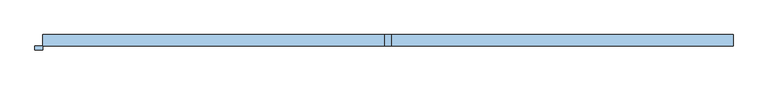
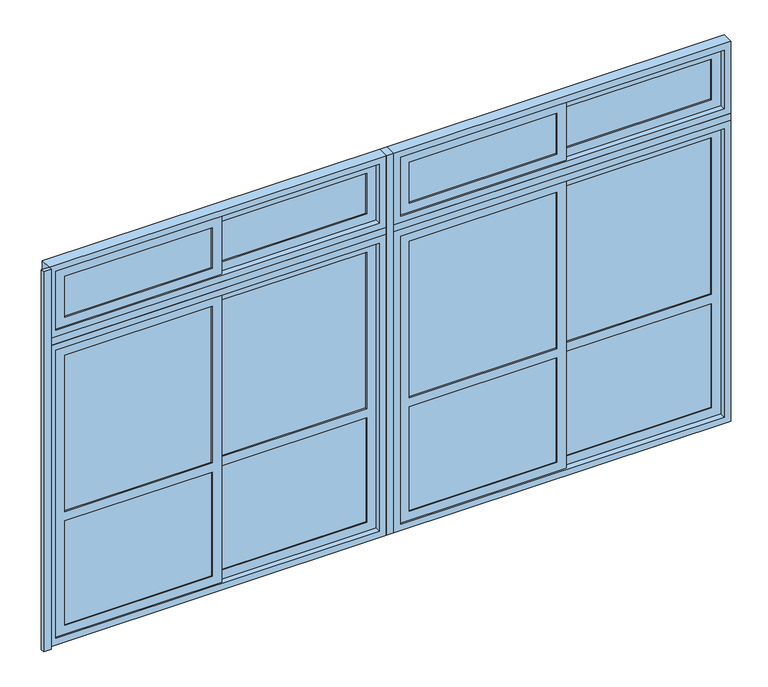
"""IFC4 building model written with IfcOpenShell, lengths in millimetres: window geometry, A11 Ventana_Corrediza_PC_4 hojas : A11.1 Ventana_Corrediza_PC_4 hojas 450x265."""

from ifc_helpers import new_model, si_unit, frame, origin, origin_with_axes, place, context, project, spatial, polyline, outline, extrude, source, transform, mapped, element, save


def window_8b68bda0(model_context):
    return source(origin(), model_context, "Body", "SweptSolid", [
        extrude(outline(polyline([(-1169.0, 28.0), (-2142.0, 28.0), (-2142.0, 44.0), (-1169.0, 44.0), (-1169.0, 28.0)])), frame((0.0, 0.0, 108.0), z_axis=(0.0, 0.0, 1.0), x_axis=(1.0, 0.0, 0.0)), (0.0, 0.0, 1.0), 728.0),
        extrude(outline(polyline([(-133.0, 56.0), (-1106.0, 56.0), (-1106.0, 72.0), (-133.0, 72.0), (-133.0, 56.0)])), frame((0.0, 0.0, 108.0), z_axis=(0.0, 0.0, 1.0), x_axis=(1.0, 0.0, 0.0)), (0.0, 0.0, 1.0), 728.0),
        extrude(outline(polyline([(-1169.0, 31.5769719), (-2142.0, 31.5769719), (-2142.0, 40.4230281), (-1169.0, 40.4230281), (-1169.0, 31.5769719)])), frame((0.0, 0.0, 2258.0), z_axis=(0.0, 0.0, 1.0), x_axis=(1.0, 0.0, 0.0)), (0.0, 0.0, 1.0), 284.0),
        extrude(outline(polyline([(-1169.0, 31.5769719), (-2142.0, 31.5769719), (-2142.0, 40.4230281), (-1169.0, 40.4230281), (-1169.0, 31.5769719)])), frame((0.0, 0.0, 900.0), z_axis=(0.0, 0.0, 1.0), x_axis=(1.0, 0.0, 0.0)), (0.0, 0.0, 1.0), 1092.0),
        extrude(outline(polyline([(-133.0, 59.5769719), (-1106.0, 59.5769719), (-1106.0, 68.4230281), (-133.0, 68.4230281), (-133.0, 59.5769719)])), frame((0.0, 0.0, 2258.0), z_axis=(0.0, 0.0, 1.0), x_axis=(1.0, 0.0, 0.0)), (0.0, 0.0, 1.0), 284.0),
        extrude(outline(polyline([(-133.0, 59.5769719), (-1106.0, 59.5769719), (-1106.0, 68.4230281), (-133.0, 68.4230281), (-133.0, 59.5769719)])), frame((0.0, 0.0, 900.0), z_axis=(0.0, 0.0, 1.0), x_axis=(1.0, 0.0, 0.0)), (0.0, 0.0, 1.0), 1092.0),
        extrude(outline(polyline([(2605.0, -2205.0), (2195.0, -2205.0), (2195.0, -1106.0), (2605.0, -1106.0), (2605.0, -2205.0)]), holes=[polyline([(2542.0, -2142.0), (2542.0, -1169.0), (2258.0, -1169.0), (2258.0, -2142.0), (2542.0, -2142.0)])]), frame((0.0, 22.0, 0.0), z_axis=(0.0, 1.0, 0.0), x_axis=(0.0, 0.0, 1.0)), (0.0, 0.0, 1.0), 28.0),
        extrude(outline(polyline([(2055.0, -2205.0), (45.0, -2205.0), (45.0, -1106.0), (2055.0, -1106.0), (2055.0, -2205.0)]), holes=[polyline([(1992.0, -2142.0), (1992.0, -1169.0), (900.0, -1169.0), (900.0, -2142.0), (1992.0, -2142.0)]), polyline([(836.0, -2142.0), (836.0, -1169.0), (108.0, -1169.0), (108.0, -2142.0), (836.0, -2142.0)])]), frame((0.0, 22.0, 0.0), z_axis=(0.0, 1.0, 0.0), x_axis=(0.0, 0.0, 1.0)), (0.0, 0.0, 1.0), 28.0),
        extrude(outline(polyline([(2605.0, -1169.0), (2195.0, -1169.0), (2195.0, -70.0), (2605.0, -70.0), (2605.0, -1169.0)]), holes=[polyline([(2542.0, -1106.0), (2542.0, -133.0), (2258.0, -133.0), (2258.0, -1106.0), (2542.0, -1106.0)])]), frame((0.0, 50.0, 0.0), z_axis=(0.0, 1.0, 0.0), x_axis=(0.0, 0.0, 1.0)), (0.0, 0.0, 1.0), 28.0),
        extrude(outline(polyline([(2055.0, -1169.0), (45.0, -1169.0), (45.0, -70.0), (2055.0, -70.0), (2055.0, -1169.0)]), holes=[polyline([(1992.0, -1106.0), (1992.0, -133.0), (900.0, -133.0), (900.0, -1106.0), (1992.0, -1106.0)]), polyline([(836.0, -1106.0), (836.0, -133.0), (108.0, -133.0), (108.0, -1106.0), (836.0, -1106.0)])]), frame((0.0, 50.0, 0.0), z_axis=(0.0, 1.0, 0.0), x_axis=(0.0, 0.0, 1.0)), (0.0, 0.0, 1.0), 28.0),
        extrude(outline(polyline([(1106.0, 28.0), (133.0, 28.0), (133.0, 44.0), (1106.0, 44.0), (1106.0, 28.0)])), frame((0.0, 0.0, 108.0), z_axis=(0.0, 0.0, 1.0), x_axis=(1.0, 0.0, 0.0)), (0.0, 0.0, 1.0), 728.0),
        extrude(outline(polyline([(2142.0, 56.0), (1169.0, 56.0), (1169.0, 72.0), (2142.0, 72.0), (2142.0, 56.0)])), frame((0.0, 0.0, 108.0), z_axis=(0.0, 0.0, 1.0), x_axis=(1.0, 0.0, 0.0)), (0.0, 0.0, 1.0), 728.0),
        extrude(outline(polyline([(1106.0, 31.5769719), (133.0, 31.5769719), (133.0, 40.4230281), (1106.0, 40.4230281), (1106.0, 31.5769719)])), frame((0.0, 0.0, 2258.0), z_axis=(0.0, 0.0, 1.0), x_axis=(1.0, 0.0, 0.0)), (0.0, 0.0, 1.0), 284.0),
        extrude(outline(polyline([(1106.0, 31.5769719), (133.0, 31.5769719), (133.0, 40.4230281), (1106.0, 40.4230281), (1106.0, 31.5769719)])), frame((0.0, 0.0, 900.0), z_axis=(0.0, 0.0, 1.0), x_axis=(1.0, 0.0, 0.0)), (0.0, 0.0, 1.0), 1092.0),
        extrude(outline(polyline([(2142.0, 59.5769719), (1169.0, 59.5769719), (1169.0, 68.4230281), (2142.0, 68.4230281), (2142.0, 59.5769719)])), frame((0.0, 0.0, 2258.0), z_axis=(0.0, 0.0, 1.0), x_axis=(1.0, 0.0, 0.0)), (0.0, 0.0, 1.0), 284.0),
        extrude(outline(polyline([(2142.0, 59.5769719), (1169.0, 59.5769719), (1169.0, 68.4230281), (2142.0, 68.4230281), (2142.0, 59.5769719)])), frame((0.0, 0.0, 900.0), z_axis=(0.0, 0.0, 1.0), x_axis=(1.0, 0.0, 0.0)), (0.0, 0.0, 1.0), 1092.0),
        extrude(outline(polyline([(45.0, 70.0), (45.0, 1169.0), (2055.0, 1169.0), (2055.0, 70.0), (45.0, 70.0)]), holes=[polyline([(900.0, 133.0), (1992.0, 133.0), (1992.0, 1106.0), (900.0, 1106.0), (900.0, 133.0)]), polyline([(108.0, 133.0), (836.0, 133.0), (836.0, 1106.0), (108.0, 1106.0), (108.0, 133.0)])]), frame((0.0, 22.0, 0.0), z_axis=(0.0, 1.0, 0.0), x_axis=(0.0, 0.0, 1.0)), (0.0, 0.0, 1.0), 28.0),
        extrude(outline(polyline([(2605.0, 70.0), (2195.0, 70.0), (2195.0, 1169.0), (2605.0, 1169.0), (2605.0, 70.0)]), holes=[polyline([(2258.0, 133.0), (2542.0, 133.0), (2542.0, 1106.0), (2258.0, 1106.0), (2258.0, 133.0)])]), frame((0.0, 22.0, 0.0), z_axis=(0.0, 1.0, 0.0), x_axis=(0.0, 0.0, 1.0)), (0.0, 0.0, 1.0), 28.0),
        extrude(outline(polyline([(2055.0, 2205.0), (2055.0, 1106.0), (45.0, 1106.0), (45.0, 2205.0), (2055.0, 2205.0)]), holes=[polyline([(1992.0, 1169.0), (1992.0, 2142.0), (900.0, 2142.0), (900.0, 1169.0), (1992.0, 1169.0)]), polyline([(836.0, 1169.0), (836.0, 2142.0), (108.0, 2142.0), (108.0, 1169.0), (836.0, 1169.0)])]), frame((0.0, 50.0, 0.0), z_axis=(0.0, 1.0, 0.0), x_axis=(0.0, 0.0, 1.0)), (0.0, 0.0, 1.0), 28.0),
        extrude(outline(polyline([(2195.0, 1106.0), (2195.0, 2205.0), (2605.0, 2205.0), (2605.0, 1106.0), (2195.0, 1106.0)]), holes=[polyline([(2542.0, 1169.0), (2542.0, 2142.0), (2258.0, 2142.0), (2258.0, 1169.0), (2542.0, 1169.0)])]), frame((0.0, 50.0, 0.0), z_axis=(0.0, 1.0, 0.0), x_axis=(0.0, 0.0, 1.0)), (0.0, 0.0, 1.0), 28.0),
        extrude(outline(polyline([(2100.0, 25.0), (0.0, 25.0), (0.0, 2250.0), (2100.0, 2250.0), (2100.0, 25.0)]), holes=[polyline([(2055.0, 70.0), (2055.0, 2205.0), (45.0, 2205.0), (45.0, 70.0), (2055.0, 70.0)])]), frame((0.0, 12.5, 0.0), z_axis=(0.0, 1.0, 0.0), x_axis=(0.0, 0.0, 1.0)), (0.0, 0.0, 1.0), 75.0),
        extrude(outline(polyline([(2100.0, -2250.0), (0.0, -2250.0), (0.0, -25.0), (2100.0, -25.0), (2100.0, -2250.0)]), holes=[polyline([(2055.0, -2205.0), (2055.0, -70.0), (45.0, -70.0), (45.0, -2205.0), (2055.0, -2205.0)])]), frame((0.0, 12.5, 0.0), z_axis=(0.0, 1.0, 0.0), x_axis=(0.0, 0.0, 1.0)), (0.0, 0.0, 1.0), 75.0),
        extrude(outline(polyline([(2650.0, 25.0), (2150.0, 25.0), (2150.0, 2250.0), (2650.0, 2250.0), (2650.0, 25.0)]), holes=[polyline([(2605.0, 70.0), (2605.0, 2205.0), (2195.0, 2205.0), (2195.0, 70.0), (2605.0, 70.0)])]), frame((0.0, 12.5, 0.0), z_axis=(0.0, 1.0, 0.0), x_axis=(0.0, 0.0, 1.0)), (0.0, 0.0, 1.0), 75.0),
        extrude(outline(polyline([(2150.0, -2250.0), (2150.0, -25.0), (2650.0, -25.0), (2650.0, -2250.0), (2150.0, -2250.0)]), holes=[polyline([(2605.0, -2205.0), (2605.0, -70.0), (2195.0, -70.0), (2195.0, -2205.0), (2605.0, -2205.0)])]), frame((0.0, 12.5, 0.0), z_axis=(0.0, 1.0, 0.0), x_axis=(0.0, 0.0, 1.0)), (0.0, 0.0, 1.0), 75.0),
        extrude(outline(polyline([(2250.0, 12.5), (25.0, 12.5), (25.0, 87.5), (2250.0, 87.5), (2250.0, 12.5)])), frame((0.0, 0.0, 2100.0), z_axis=(0.0, 0.0, 1.0), x_axis=(1.0, 0.0, 0.0)), (0.0, 0.0, 1.0), 50.0),
        extrude(outline(polyline([(-25.0, 12.5), (-2250.0, 12.5), (-2250.0, 87.5), (-25.0, 87.5), (-25.0, 12.5)])), frame((0.0, 0.0, 2100.0), z_axis=(0.0, 0.0, 1.0), x_axis=(1.0, 0.0, 0.0)), (0.0, 0.0, 1.0), 50.0),
        extrude(outline(polyline([(25.0, 12.5), (-25.0, 12.5), (-25.0, 87.5), (25.0, 87.5), (25.0, 12.5)])), origin_with_axes(), (0.0, 0.0, 1.0), 2650.0),
        extrude(outline(polyline([(-2250.0, -12.5), (-2300.0, -12.5), (-2300.0, 12.5), (-2250.0, 12.5), (-2250.0, -12.5)])), origin_with_axes(), (0.0, 0.0, 1.0), 2650.0),
    ])


if __name__ == "__main__":
    model = new_model("IFC4")
    model_context = context("Model", 3, world=origin())
    ifc_project = project(units=[si_unit("LENGTHUNIT", "METRE", prefix="MILLI")], contexts=[model_context])
    site = spatial("IfcSite", under=ifc_project)
    building = spatial("IfcBuilding", under=site)
    placement = place(None, origin())
    window_shape = window_8b68bda0(model_context)
    element("IfcWindow", 1, ObjectType="A11 Ventana_Corrediza_PC_4 hojas : A11.1 Ventana_Corrediza_PC_4 hojas 450x265", at=placement, inside=building, context=model_context, shape_type="MappedRepresentation", body=[
        mapped(window_shape, transform((0.0, 0.0, 0.0), x_axis=(1.0, 0.0, 0.0), y_axis=(0.0, 1.0, 0.0), z_axis=(0.0, 0.0, 1.0))),
    ])
    save(model, "model.ifc")
